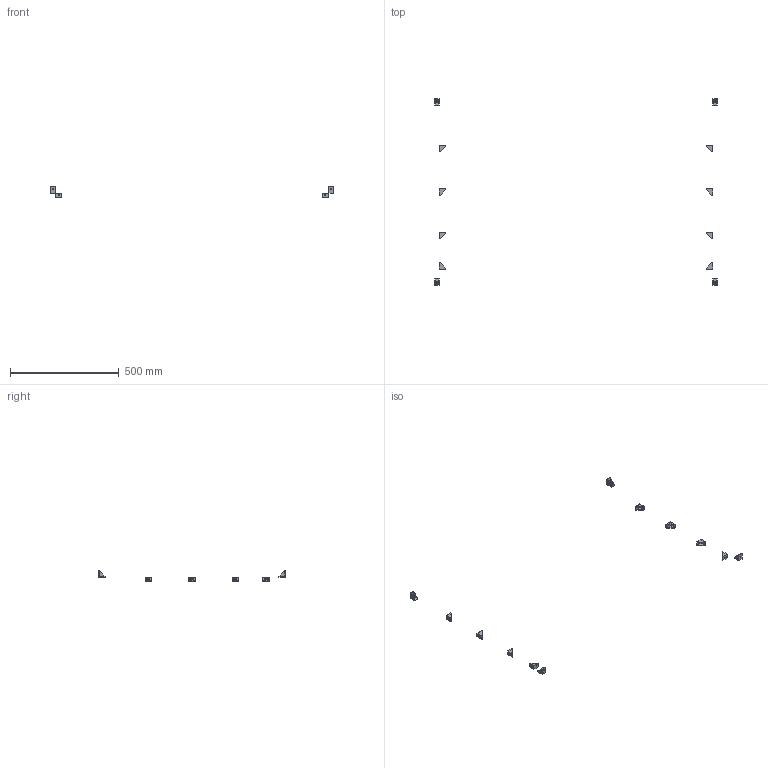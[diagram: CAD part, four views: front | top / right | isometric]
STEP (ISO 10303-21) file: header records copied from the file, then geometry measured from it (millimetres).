
FILE_DESCRIPTION(/* description */ (''),/* implementation_level */ '2;1');
FILE_NAME(/* name */ 'FR9134~1',/* time_stamp */ '2014-02-14T19:50:24+01:00',/* author */ (''),/* organization */ (''),/* preprocessor_version */ 'ST-DEVELOPER v14',/* originating_system */ '',/* authorisation */ '');
FILE_SCHEMA (('AUTOMOTIVE_DESIGN'));
Length unit declared in the file: millimetre
Products named in the file (2): Document; angle bracket, single
Assembly tree (6 placements, depth 2):
  Document
    angle bracket, single  x6
Bounding box: 1300 x 860 x 50 mm (x, y, z)
Volume: 76262.9 mm3; surface area: 50631.7 mm2
Topology: 12 solids, 12 shells, 216 faces, 528 edges, 336 vertices
Faces by surface type: plane 144, bspline 72
Entity records: 8916 total; most frequent: CARTESIAN_POINT 4594, B_SPLINE_CURVE_WITH_KNOTS 798, ORIENTED_EDGE 616, PCURVE 616, DEFINITIONAL_REPRESENTATION 616, SURFACE_CURVE 308, EDGE_CURVE 308, VERTEX_POINT 196
